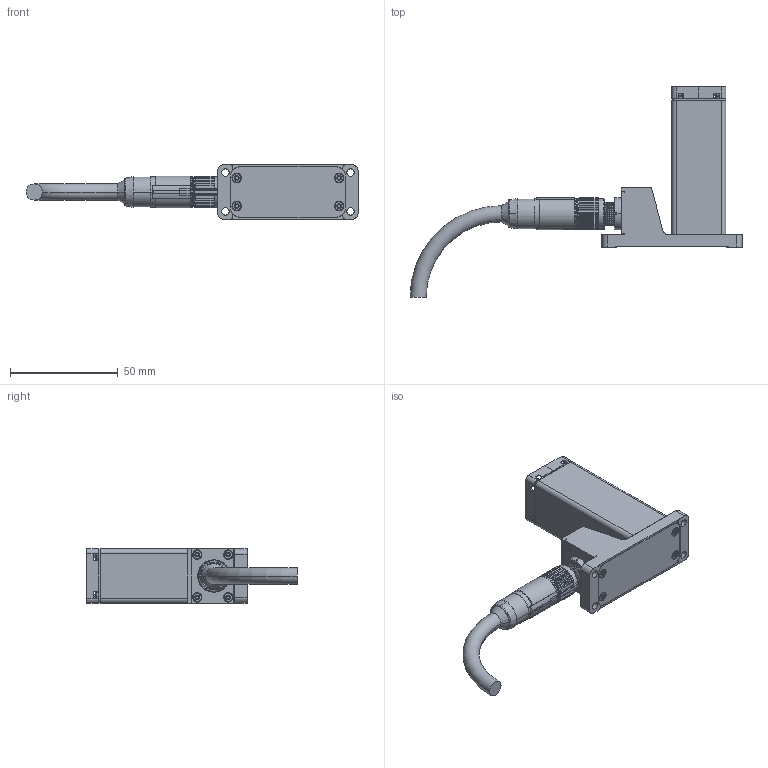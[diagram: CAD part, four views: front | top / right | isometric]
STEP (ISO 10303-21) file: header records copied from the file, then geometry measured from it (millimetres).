
FILE_DESCRIPTION((''),'2;1');
FILE_NAME('D000261742_A','2020-03-12T09:41:25',('scheu-1'),(''),'CREO PARAMETRIC BY PTC INC, 2018260','CREO PARAMETRIC BY PTC INC, 2018260','');
FILE_SCHEMA(('CONFIG_CONTROL_DESIGN'));
Products named in the file (1): D000261742_A
Bounding box: 154 x 97.7 x 25.2 mm (x, y, z)
Volume: 68546.9 mm3; surface area: 21928.4 mm2
Topology: 1 solids, 1 shells, 1183 faces, 3072 edges, 1928 vertices
Faces by surface type: cylinder 450, plane 412, bspline 132, cone 108, torus 63, sphere 18
Entity records: 63044 total; most frequent: CARTESIAN_POINT 34820, ORIENTED_EDGE 6140, DIRECTION 5589, EDGE_CURVE 3070, AXIS2_PLACEMENT_3D 2152, VERTEX_POINT 1928, EDGE_LOOP 1310, VECTOR 1285
